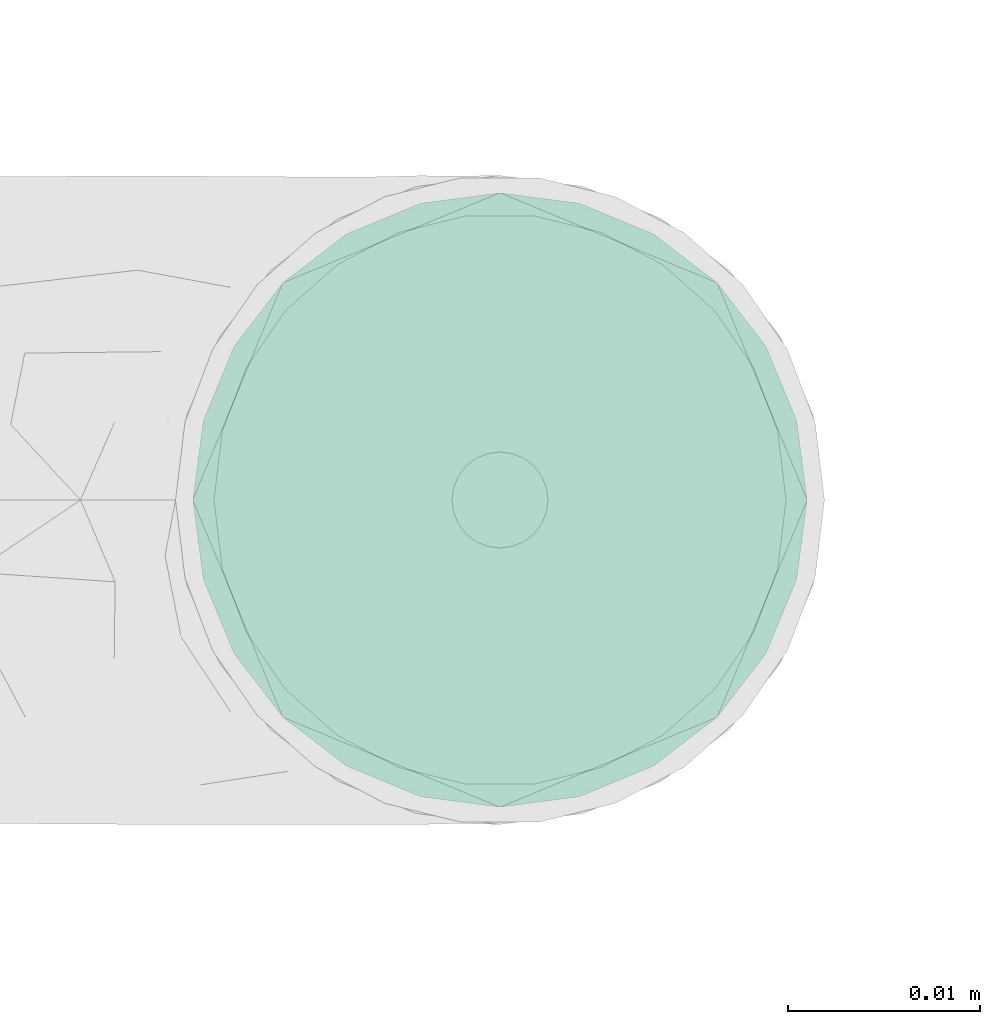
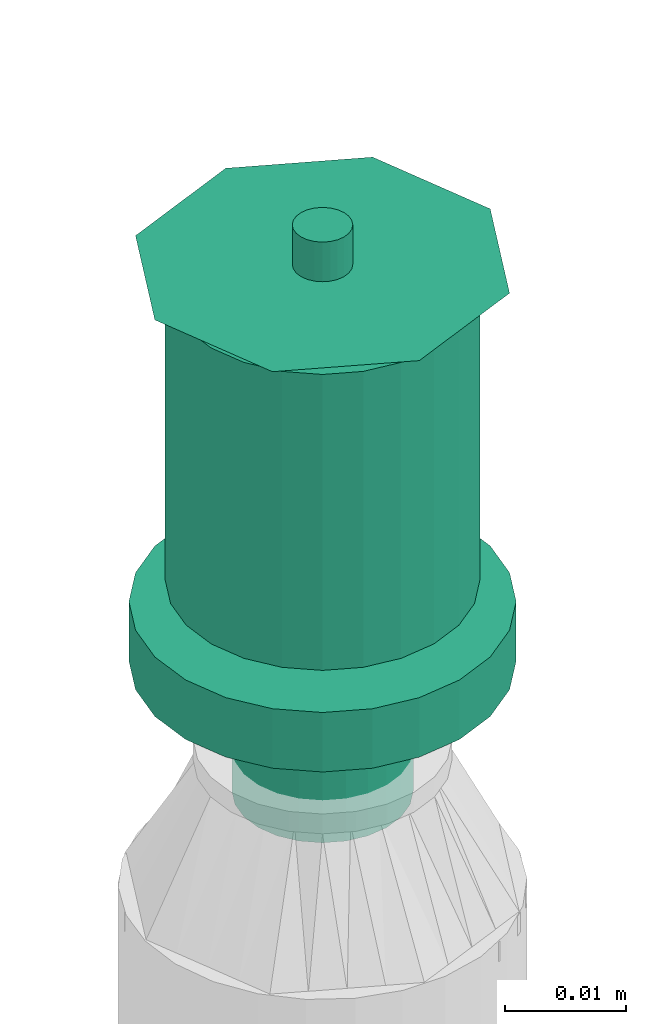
# One storey, part 135 of 157: 1 flow terminal.
"""IFC2X3 building model written with IfcOpenShell, lengths in millimetres."""

import ifcopenshell
import ifcopenshell.guid

model = None  # the IFC model being written
_history = None  # IfcOwnerHistory: only IFC2X3 demands one
_inside = {}  # id of a spatial element -> (the spatial element, [elements in it])
_under = {}  # id of a project, library or spatial element -> (it, [spatial elements below it])
_declared = {}  # id of a project -> (the project, [libraries it declares])
_typed = {}  # id of a type object -> (the type object, [elements of that type])
_made_of = {}  # id of a material, layer set ... -> (it, [elements and type objects made of it])


def new_model(schema):
    """Start an empty IFC model of exactly this schema.

    Asked for "IFC4X3", IfcOpenShell would pick the latest addendum, in which some entities
    have other attributes; the version numbers below select the first issue.
    IFC2X3 requires an IfcOwnerHistory on every rooted entity: one is made here for all.
    """
    global model, _history
    if schema == "IFC4X3":
        model = ifcopenshell.file(schema_version=(4, 3, 0, 0))
    else:
        model = ifcopenshell.file(schema=schema)
    _inside.clear()
    _under.clear()
    _declared.clear()
    _typed.clear()
    _made_of.clear()
    _history = None
    if model.schema == "IFC2X3":
        org = make("IfcOrganization", Name="unknown")
        user = make(
            "IfcPersonAndOrganization",
            ThePerson=make("IfcPerson", FamilyName="unknown"),
            TheOrganization=org,
        )
        app = make(
            "IfcApplication",
            ApplicationDeveloper=org,
            Version="unknown",
            ApplicationFullName="unknown",
            ApplicationIdentifier="unknown",
        )
        _history = make(
            "IfcOwnerHistory",
            OwningUser=user,
            OwningApplication=app,
            ChangeAction="ADDED",
            CreationDate=0,
        )
    return model


def make(cls, **values):
    """One entity of the class cls with the attributes given. An attribute that is None is left unset."""
    return model.create_entity(
        cls, **{name: value for name, value in values.items() if value is not None}
    )


def entity(cls, *values):
    """Any entity or typed value of the class cls, its attributes in the order of the schema. None: left unset."""
    e = model.create_entity(cls)
    for i, value in enumerate(values):
        if value is not None:
            e[i] = value
    return e


def rooted(cls, **values):
    """An entity with a GlobalId (a new one), such as an element, a storey or a relation."""
    return make(cls, GlobalId=ifcopenshell.guid.new(), OwnerHistory=_history, **values)


def si_unit(unit_type, name, prefix=None):
    """IfcSIUnit, for example si_unit("LENGTHUNIT", "METRE", prefix="MILLI")."""
    return make("IfcSIUnit", UnitType=unit_type, Prefix=prefix, Name=name)


def converted_unit(unit_type, name, factor, base, dimensions=None, offset=None):
    """IfcConversionBasedUnit, such as the inch: factor (a typed value) times the base unit."""
    return make(
        "IfcConversionBasedUnit"
        if offset is None
        else "IfcConversionBasedUnitWithOffset",
        ConversionOffset=offset,
        Dimensions=None
        if dimensions is None
        else entity("IfcDimensionalExponents", *dimensions),
        UnitType=unit_type,
        Name=name,
        ConversionFactor=make(
            "IfcMeasureWithUnit", ValueComponent=factor, UnitComponent=base
        ),
    )


def derived_unit(unit_type, elements):
    """IfcDerivedUnit: a product of units, each with its exponent."""
    return make(
        "IfcDerivedUnit",
        Elements=[
            make("IfcDerivedUnitElement", Unit=unit, Exponent=power)
            for unit, power in elements
        ],
        UnitType=unit_type,
    )


def assignment(units):
    """IfcUnitAssignment: the units of a project."""
    return None if units is None else make("IfcUnitAssignment", Units=units)


def point(xyz):
    """IfcCartesianPoint."""
    return None if xyz is None else make("IfcCartesianPoint", Coordinates=xyz)


def direction(xyz):
    """IfcDirection."""
    return None if xyz is None else make("IfcDirection", DirectionRatios=xyz)


def frame(location, z_axis=None, x_axis=None):
    """IfcAxis2Placement3D, a coordinate frame: its origin and axes. An axis left out is left unset."""
    return make(
        "IfcAxis2Placement3D",
        Location=point(location),
        Axis=direction(z_axis),
        RefDirection=direction(x_axis),
    )


def origin_with_axes():
    """The frame at (0, 0, 0) with the z axis (0, 0, 1) and the x axis (1, 0, 0) written out."""
    return frame((0.0, 0.0, 0.0), z_axis=(0.0, 0.0, 1.0), x_axis=(1.0, 0.0, 0.0))


def place(relative_to, where):
    """IfcLocalPlacement: puts the frame where relative to a parent placement (None: the world)."""
    return make(
        "IfcLocalPlacement", PlacementRelTo=relative_to, RelativePlacement=where
    )


def context(
    kind, dimensions, precision=None, world=None, true_north=None, identifier=None
):
    """IfcGeometricRepresentationContext, for example the 3D "Model" context."""
    return make(
        "IfcGeometricRepresentationContext",
        ContextIdentifier=identifier,
        ContextType=kind,
        CoordinateSpaceDimension=dimensions,
        Precision=precision,
        WorldCoordinateSystem=world,
        TrueNorth=true_north,
    )


def subcontext(parent, identifier, kind, view, scale=None):
    """IfcGeometricRepresentationSubContext, for example "Body" below "Model"."""
    return make(
        "IfcGeometricRepresentationSubContext",
        ContextIdentifier=identifier,
        ContextType=kind,
        ParentContext=parent,
        TargetScale=scale,
        TargetView=view,
    )


def project(units=None, contexts=None):
    """IfcProject with its units and contexts."""
    return rooted(
        "IfcProject",
        Name="project",
        RepresentationContexts=contexts,
        UnitsInContext=assignment(units),
    )


def spatial(cls, under=None, at=None, **own):
    """A site, building, storey or space (cls), placed at a placement, below another one or the project."""
    s = rooted(cls, ObjectPlacement=at, **own)
    if under is not None:
        _under.setdefault(under.id(), (under, []))[1].append(s)
    return s


def faces_of(points, faces, orient=None, outer=None):
    """IfcFace entities. A face is a list of loops; a loop is a list of indices into points, from 0.

    orient and outer hold one flag for each loop. By default every Orientation is true, the
    first loop of a face is its IfcFaceOuterBound and the others are IfcFaceBound.
    """
    made = []
    for i, loops in enumerate(faces):
        bounds = []
        for j, loop in enumerate(loops):
            is_outer = j == 0 if outer is None else outer[i][j]
            bounds.append(
                make(
                    "IfcFaceOuterBound" if is_outer else "IfcFaceBound",
                    Bound=make("IfcPolyLoop", Polygon=[points[k] for k in loop]),
                    Orientation=True if orient is None else orient[i][j],
                )
            )
        made.append(make("IfcFace", Bounds=bounds))
    return made


def open_shell(faces, orient=None, outer=None):
    """The faces of one IfcOpenShell. surface_model builds it on its shared points."""
    return ("IfcOpenShell", faces, orient, outer)


def surface_model(cls, points, shells):
    """IfcFaceBasedSurfaceModel or IfcShellBasedSurfaceModel (cls): surfaces that need not close."""
    shared = [point(p) for p in points]
    made = [make(c, CfsFaces=faces_of(shared, fs, o, b)) for c, fs, o, b in shells]
    if cls == "IfcFaceBasedSurfaceModel":
        return make(cls, FbsmFaces=made)
    return make(cls, SbsmBoundary=made)


def shape(context_of_items, identifier, shape_type, items):
    """IfcShapeRepresentation: the items that make up one representation, for example the "Body"."""
    return make(
        "IfcShapeRepresentation",
        ContextOfItems=context_of_items,
        RepresentationIdentifier=identifier,
        RepresentationType=shape_type,
        Items=items,
    )


def source(mapping_origin, context_of_items, identifier, shape_type, items):
    """IfcRepresentationMap: a shape defined once, which mapped items show again and again."""
    return make(
        "IfcRepresentationMap",
        MappingOrigin=mapping_origin,
        MappedRepresentation=shape(context_of_items, identifier, shape_type, items),
    )


def transform(
    local_origin,
    x_axis=None,
    y_axis=None,
    z_axis=None,
    scale=None,
    scale2=None,
    scale3=None,
    uniform=True,
):
    """IfcCartesianTransformationOperator3D, or its non-uniform kind. x_axis, y_axis, z_axis: its Axis1, 2, 3."""
    if uniform:
        return make(
            "IfcCartesianTransformationOperator3D",
            Axis1=direction(x_axis),
            Axis2=direction(y_axis),
            LocalOrigin=point(local_origin),
            Scale=scale,
            Axis3=direction(z_axis),
        )
    return make(
        "IfcCartesianTransformationOperator3DnonUniform",
        Axis1=direction(x_axis),
        Axis2=direction(y_axis),
        LocalOrigin=point(local_origin),
        Scale=scale,
        Axis3=direction(z_axis),
        Scale2=scale2,
        Scale3=scale3,
    )


def mapped(mapping_source, mapping_target):
    """IfcMappedItem: shows the shape of a source again, moved by a transform."""
    return make(
        "IfcMappedItem", MappingSource=mapping_source, MappingTarget=mapping_target
    )


def made_of(thing, what):
    """Note that an element or type object is made of a material, layer set ...; save() writes the relation."""
    if what is not None:
        _made_of.setdefault(what.id(), (what, []))[1].append(thing)
    return thing


def type_object(cls, material=None, **own):
    """A type object (cls), such as IfcWallType, which elements share."""
    return made_of(rooted(cls, **own), material)


def element(
    cls,
    number,
    at=None,
    inside=None,
    cuts=None,
    type_object=None,
    material=None,
    context=None,
    identifier="Body",
    shape_type=None,
    held_by="IfcProductDefinitionShape",
    body=None,
    shapes=None,
    **own,
):
    """One element of the class cls, such as IfcWall. Its Tag is "e" and its number.

    at: its placement. inside: the storey or other place that contains it. cuts: it is an
    opening in that element (IfcRelVoidsElement). A single representation is given by context,
    identifier, shape_type and body (its items); several are given by shapes. held_by: the class
    of the entity that holds the representations. save() writes the other relations.
    """
    e = rooted(cls, Tag="e%d" % number, ObjectPlacement=at, **own)
    if body is not None:
        shapes = [shape(context, identifier, shape_type, body)]
    if shapes is not None:
        e.Representation = make(held_by, Representations=shapes)
    if inside is not None:
        _inside.setdefault(inside.id(), (inside, []))[1].append(e)
    if cuts is not None:
        rooted(
            "IfcRelVoidsElement", RelatingBuildingElement=cuts, RelatedOpeningElement=e
        )
    if type_object is not None:
        _typed.setdefault(type_object.id(), (type_object, []))[1].append(e)
    return made_of(e, material)


def aggregate(whole, parts):
    """IfcRelAggregates: a whole, such as a stair, and the parts it consists of."""
    return rooted("IfcRelAggregates", RelatingObject=whole, RelatedObjects=parts)


def save(model, path):
    """Write the relations noted so far, then the file.

    IfcRelAggregates (storeys below a building ...), IfcRelContainedInSpatialStructure (elements
    in a storey), IfcRelDefinesByType, IfcRelAssociatesMaterial and IfcRelDeclares: one each for
    every whole, place, type object, material and project.
    """
    for whole, parts in _under.values():
        aggregate(whole, parts)
    for where, things in _inside.values():
        rooted(
            "IfcRelContainedInSpatialStructure",
            RelatedElements=things,
            RelatingStructure=where,
        )
    for kind, things in _typed.values():
        rooted("IfcRelDefinesByType", RelatedObjects=things, RelatingType=kind)
    for what, things in _made_of.values():
        rooted("IfcRelAssociatesMaterial", RelatedObjects=things, RelatingMaterial=what)
    for by, libraries in _declared.values():
        rooted("IfcRelDeclares", RelatingContext=by, RelatedDefinitions=libraries)
    model.write(path)


model = new_model("IFC2X3")

# Units and contexts
model_context = context("Model", 3, precision=0.01, world=frame((0.0, 4.29681676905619e-09, 0.0)), true_north=direction((4.01073788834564e-13, 1.0)))
plan_context = context("Plan", 3, precision=0.01, world=frame((0.0, 4.29681676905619e-09, 0.0)), true_north=direction((4.01073788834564e-13, 1.0)))
body_context = subcontext(model_context, "Body", "Model", "MODEL_VIEW")
ifc_project = project(units=[converted_unit("PLANEANGLEUNIT", "DEGREE", entity("IfcPositiveLengthMeasure", 0.0174532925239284), si_unit("PLANEANGLEUNIT", "RADIAN"), dimensions=[0, 0, 0, 0, 0, 0, 0]), si_unit("AREAUNIT", "SQUARE_METRE"), si_unit("LENGTHUNIT", "METRE", prefix="MILLI"), si_unit("MASSUNIT", "GRAM", prefix="KILO"), si_unit("POWERUNIT", "WATT"), si_unit("PRESSUREUNIT", "PASCAL"), si_unit("FORCEUNIT", "NEWTON", prefix="KILO"), si_unit("ELECTRICCURRENTUNIT", "AMPERE"), si_unit("THERMODYNAMICTEMPERATUREUNIT", "DEGREE_CELSIUS"), si_unit("TIMEUNIT", "SECOND"), si_unit("VOLUMEUNIT", "CUBIC_METRE"), derived_unit("LINEARVELOCITYUNIT", [(si_unit("LENGTHUNIT", "METRE"), 1), (si_unit("TIMEUNIT", "SECOND"), -1)]), derived_unit("VOLUMETRICFLOWRATEUNIT", [(si_unit("VOLUMEUNIT", "CUBIC_METRE"), 1), (si_unit("TIMEUNIT", "SECOND"), -1)]), derived_unit("THERMALTRANSMITTANCEUNIT", [(si_unit("POWERUNIT", "WATT"), 1), (si_unit("THERMODYNAMICTEMPERATUREUNIT", "KELVIN"), -1), (si_unit("AREAUNIT", "SQUARE_METRE"), -1)])], contexts=[model_context, plan_context])

# Site, building, storey
site_placement = place(None, frame((0.0, -4.29681676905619e-09, 0.0), z_axis=(0.0, 0.0, 1.0), x_axis=(1.0, 0.0, 0.0)))
site = spatial("IfcSite", under=ifc_project, at=site_placement, CompositionType="ELEMENT")
building_placement = place(site_placement, frame((0.0, 4.29681676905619e-09, 0.0), z_axis=(0.0, 0.0, 1.0), x_axis=(1.0, 0.0, 0.0)))
building = spatial("IfcBuilding", under=site, at=building_placement, Name="mc-building", CompositionType="ELEMENT")
storey_placement = place(building_placement, frame((0.0, 0.0, 204000.0), z_axis=(0.0, 0.0, 1.0), x_axis=(1.0, 0.0, 0.0)))
storey = spatial("IfcBuildingStorey", under=building, at=storey_placement, Name="Nivå D", CompositionType="ELEMENT", Elevation=204000.0)

# Flow terminal
fire_suppression_terminal_type = type_object("IfcFireSuppressionTerminalType", Name="68DGR-STD-STÅENDE", PredefinedType="NOTDEFINED")
shared_shape = source(origin_with_axes(), body_context, "Body", "SurfaceModel", [
    surface_model("IfcShellBasedSurfaceModel", [(3.36465, -12.55704, 51.0), (6.5, -11.25833, 51.0), (9.19239, -9.19239, 51.0), (12.55704, -3.36465, 51.0), (-11.25833, -6.5, 51.0), (11.25833, -6.5, 51.0), (-13.0, 0.0, 51.0), (0.0, -13.0, 51.0), (-6.5, -11.25833, 51.0), (-3.36465, -12.55704, 51.0), (-9.19239, -9.19239, 51.0), (-12.55704, -3.36465, 51.0), (13.0, 0.0, 51.0), (12.55704, 3.36465, 51.0), (11.25833, 6.5, 51.0), (9.19239, 9.19239, 51.0), (6.5, 11.25833, 51.0), (3.36465, 12.55704, 51.0), (0.0, 13.0, 51.0), (-3.36465, 12.55704, 51.0), (-12.55704, 3.36465, 51.0), (-9.19239, 9.19239, 51.0), (-11.25833, 6.5, 51.0), (-6.5, 11.25833, 51.0), (0.0, 13.0, 21.14766), (3.36465, 12.55704, 21.14766), (6.5, 11.25833, 21.14766), (-3.36465, 12.55704, 21.14766), (9.19239, 9.19239, 21.14766), (11.25833, 6.5, 21.14766), (12.55704, 3.36465, 21.14766), (-12.55704, 3.36465, 21.14766), (-11.25833, -6.5, 21.14766), (-9.19239, 9.19239, 21.14766), (-6.5, 11.25833, 21.14766), (-11.25833, 6.5, 21.14766), (-13.0, 0.0, 21.14766), (12.55704, -3.36465, 21.14766), (9.19239, -9.19239, 21.14766), (11.25833, -6.5, 21.14766), (6.5, -11.25833, 21.14766), (3.36465, -12.55704, 21.14766), (-6.5, -11.25833, 21.14766), (-9.19239, -9.19239, 21.14766), (-12.55704, -3.36465, 21.14766), (0.0, -13.0, 21.14766), (-3.36465, -12.55704, 21.14766), (13.0, 0.0, 21.14766), (7.24444, -1.94114, 0.1), (1.94114, -7.24444, 0.1), (3.75, -6.49519, 0.1), (5.3033, -5.3033, 0.1), (-5.3033, -5.3033, 0.1), (6.49519, -3.75, 0.1), (5.3033, 5.3033, 0.1), (0.0, -7.5, 0.1), (-3.75, -6.49519, 0.1), (-1.94114, -7.24444, 0.1), (-7.24444, -1.94114, 0.1), (-6.49519, -3.75, 0.1), (-7.24444, 1.94114, 0.1), (7.5, 0.0, 0.1), (6.49519, 3.75, 0.1), (-6.49519, 3.75, 0.1), (1.94114, 7.24444, 0.1), (0.0, 7.5, 0.1), (3.75, 6.49519, 0.1), (-7.5, 0.0, 0.1), (-5.3033, 5.3033, 0.1), (-1.94114, 7.24444, 0.1), (-3.75, 6.49519, 0.1), (7.24444, 1.94114, 0.1), (1.94114, 7.24444, -0.1), (-6.49519, 3.75, -0.1), (0.0, 7.5, -0.1), (5.3033, 5.3033, -0.1), (3.75, 6.49519, -0.1), (6.49519, 3.75, -0.1), (7.24444, 1.94114, -0.1), (-1.94114, 7.24444, -0.1), (-5.3033, 5.3033, -0.1), (-3.75, 6.49519, -0.1), (-7.24444, 1.94114, -0.1), (-7.24444, -1.94114, -0.1), (-7.5, 0.0, -0.1), (7.5, 0.0, -0.1), (7.24444, -1.94114, -0.1), (-5.3033, -5.3033, -0.1), (1.94114, -7.24444, -0.1), (6.49519, -3.75, -0.1), (5.3033, -5.3033, -0.1), (3.75, -6.49519, -0.1), (-6.49519, -3.75, -0.1), (-3.75, -6.49519, -0.1), (0.0, -7.5, -0.1), (-1.94114, -7.24444, -0.1), (0.0, -2.5, 51.0), (-2.5, 0.0, 51.0), (0.0, 2.5, 51.0), (2.5, 0.0, 51.0), (0.0, -16.0, 53.0), (11.31371, -11.31371, 53.0), (-11.31371, -11.31371, 53.0), (-16.0, 0.0, 53.0), (16.0, 0.0, 53.0), (11.31371, 11.31371, 53.0), (0.0, 16.0, 53.0), (-11.31371, 11.31371, 53.0), (1.25, -2.16506, 57.0), (0.0, -2.5, 57.0), (0.64705, -2.41481, 57.0), (2.41481, -0.64705, 57.0), (1.76777, -1.76777, 57.0), (-2.41481, -0.64705, 57.0), (-2.5, 0.0, 57.0), (2.16506, -1.25, 57.0), (-1.25, -2.16506, 57.0), (-0.64705, -2.41481, 57.0), (-1.76777, -1.76777, 57.0), (-2.16506, -1.25, 57.0), (2.5, 0.0, 57.0), (2.41481, 0.64705, 57.0), (2.16506, 1.25, 57.0), (1.76777, 1.76777, 57.0), (0.64705, 2.41481, 57.0), (1.25, 2.16506, 57.0), (-1.76777, 1.76777, 57.0), (0.0, 2.5, 57.0), (-2.16506, 1.25, 57.0), (-2.41481, 0.64705, 57.0), (-0.64705, 2.41481, 57.0), (-1.25, 2.16506, 57.0), (1.25, 2.16506, 51.0), (1.76777, 1.76777, 51.0), (1.15, 1.99186, 51.0), (0.59528, 2.22163, 51.0), (0.64705, 2.41481, 51.0), (0.0, 2.3, 51.0), (1.62635, 1.62635, 51.0), (2.41481, 0.64705, 51.0), (2.3, 0.0, 51.0), (2.22163, 0.59528, 51.0), (2.16506, 1.25, 51.0), (1.99186, 1.15, 51.0), (-0.59528, 2.22163, 51.0), (-0.64705, 2.41481, 51.0), (-1.15, 1.99186, 51.0), (-1.76777, 1.76777, 51.0), (-1.25, 2.16506, 51.0), (-1.62635, 1.62635, 51.0), (-1.99186, 1.15, 51.0), (-2.16506, 1.25, 51.0), (-2.22163, 0.59528, 51.0), (-2.41481, 0.64705, 51.0), (-2.3, 0.0, 51.0), (2.41481, -0.64705, 51.0), (2.22163, -0.59528, 51.0), (1.99186, -1.15, 51.0), (2.16506, -1.25, 51.0), (1.62635, -1.62635, 51.0), (1.76777, -1.76777, 51.0), (1.25, -2.16506, 51.0), (1.15, -1.99186, 51.0), (0.59528, -2.22163, 51.0), (0.64705, -2.41481, 51.0), (0.0, -2.3, 51.0), (-2.16506, -1.25, 51.0), (-1.99186, -1.15, 51.0), (-1.76777, -1.76777, 51.0), (-1.62635, -1.62635, 51.0), (-2.41481, -0.64705, 51.0), (-2.22163, -0.59528, 51.0), (-0.59528, -2.22163, 51.0), (-0.64705, -2.41481, 51.0), (-1.15, -1.99186, 51.0), (-1.25, -2.16506, 51.0), (1.62635, -1.62635, 56.8), (1.15, -1.99186, 56.8), (0.59528, -2.22163, 56.8), (0.0, -2.3, 56.8), (2.22163, 0.59528, 56.8), (1.99186, -1.15, 56.8), (2.22163, -0.59528, 56.8), (-0.59528, -2.22163, 56.8), (-1.15, -1.99186, 56.8), (-1.62635, -1.62635, 56.8), (-1.99186, -1.15, 56.8), (-2.22163, -0.59528, 56.8), (-1.99186, 1.15, 56.8), (2.3, 0.0, 56.8), (1.62635, 1.62635, 56.8), (1.99186, 1.15, 56.8), (1.15, 1.99186, 56.8), (0.0, 2.3, 56.8), (0.59528, 2.22163, 56.8), (-2.22163, 0.59528, 56.8), (-2.3, 0.0, 56.8), (-1.15, 1.99186, 56.8), (-0.59528, 2.22163, 56.8), (-1.62635, 1.62635, 56.8), (4.1411, -15.45481, 19.0), (8.0, -13.85641, 19.0), (11.31371, -11.31371, 19.0), (-8.0, -13.85641, 19.0), (15.45481, -4.1411, 19.0), (16.0, 0.0, 19.0), (13.85641, -8.0, 19.0), (0.0, -16.0, 19.0), (-4.1411, -15.45481, 19.0), (-13.85641, -8.0, 19.0), (-11.31371, -11.31371, 19.0), (-15.45481, -4.1411, 19.0), (15.45481, 4.1411, 19.0), (13.85641, 8.0, 19.0), (11.31371, 11.31371, 19.0), (-4.1411, 15.45481, 19.0), (8.0, 13.85641, 19.0), (4.1411, 15.45481, 19.0), (0.0, 16.0, 19.0), (-13.85641, 8.0, 19.0), (-15.45481, 4.1411, 19.0), (-16.0, 0.0, 19.0), (-11.31371, 11.31371, 19.0), (-8.0, 13.85641, 19.0), (0.0, 16.0, 13.0), (4.1411, 15.45481, 13.0), (8.0, 13.85641, 13.0), (-4.1411, 15.45481, 13.0), (11.31371, 11.31371, 13.0), (13.85641, 8.0, 13.0), (15.45481, 4.1411, 13.0), (-15.45481, -4.1411, 13.0), (-11.31371, 11.31371, 13.0), (-8.0, 13.85641, 13.0), (-13.85641, 8.0, 13.0), (-15.45481, 4.1411, 13.0), (-16.0, 0.0, 13.0), (4.1411, -15.45481, 13.0), (16.0, 0.0, 13.0), (15.45481, -4.1411, 13.0), (13.85641, -8.0, 13.0), (11.31371, -11.31371, 13.0), (8.0, -13.85641, 13.0), (-8.0, -13.85641, 13.0), (-13.85641, -8.0, 13.0), (-11.31371, -11.31371, 13.0), (0.0, -16.0, 13.0), (-4.1411, -15.45481, 13.0), (7.24444, -1.94114, 13.0), (1.94114, -7.24444, 13.0), (3.75, -6.49519, 13.0), (5.3033, -5.3033, 13.0), (-5.3033, -5.3033, 13.0), (6.49519, -3.75, 13.0), (5.3033, 5.3033, 13.0), (0.0, -7.5, 13.0), (-3.75, -6.49519, 13.0), (-1.94114, -7.24444, 13.0), (-7.24444, -1.94114, 13.0), (-6.49519, -3.75, 13.0), (-7.24444, 1.94114, 13.0), (7.5, 0.0, 13.0), (6.49519, 3.75, 13.0), (-6.49519, 3.75, 13.0), (1.94114, 7.24444, 13.0), (0.0, 7.5, 13.0), (3.75, 6.49519, 13.0), (-7.5, 0.0, 13.0), (-5.3033, 5.3033, 13.0), (-1.94114, 7.24444, 13.0), (-3.75, 6.49519, 13.0), (7.24444, 1.94114, 13.0), (3.75, 6.49519, 0.0), (5.3033, 5.3033, 0.0), (3.65, 6.32199, 0.0), (1.88938, 7.05126, 0.0), (0.0, 7.3, 0.0), (1.94114, 7.24444, 0.0), (0.0, 7.5, 0.0), (5.16188, 5.16188, 0.0), (7.24444, 1.94114, 0.0), (7.3, 0.0, 0.0), (7.05126, 1.88938, 0.0), (7.5, 0.0, 0.0), (6.49519, 3.75, 0.0), (6.32199, 3.65, 0.0), (-1.88938, 7.05126, 0.0), (-1.94114, 7.24444, 0.0), (-3.65, 6.32199, 0.0), (-5.3033, 5.3033, 0.0), (-3.75, 6.49519, 0.0), (-5.16188, 5.16188, 0.0), (-6.32199, 3.65, 0.0), (-6.49519, 3.75, 0.0), (-7.05126, 1.88938, 0.0), (-7.24444, 1.94114, 0.0), (-7.3, 0.0, 0.0), (-7.5, 0.0, 0.0), (7.24444, -1.94114, 0.0), (7.05126, -1.88938, 0.0), (6.32199, -3.65, 0.0), (6.49519, -3.75, 0.0), (5.16188, -5.16188, 0.0), (5.3033, -5.3033, 0.0), (3.75, -6.49519, 0.0), (3.65, -6.32199, 0.0), (1.88938, -7.05126, 0.0), (1.94114, -7.24444, 0.0), (0.0, -7.3, 0.0), (0.0, -7.5, 0.0), (-6.49519, -3.75, 0.0), (-6.32199, -3.65, 0.0), (-5.3033, -5.3033, 0.0), (-5.16188, -5.16188, 0.0), (-7.24444, -1.94114, 0.0), (-7.05126, -1.88938, 0.0), (-1.88938, -7.05126, 0.0), (-1.94114, -7.24444, 0.0), (-3.65, -6.32199, 0.0), (-3.75, -6.49519, 0.0), (1.88938, -7.05126, 12.8), (0.0, -7.3, 12.8), (3.65, -6.32199, 12.8), (5.16188, -5.16188, 12.8), (6.32199, -3.65, 12.8), (7.05126, 1.88938, 12.8), (7.05126, -1.88938, 12.8), (-5.16188, -5.16188, 12.8), (-1.88938, -7.05126, 12.8), (-3.65, -6.32199, 12.8), (-6.32199, -3.65, 12.8), (-7.05126, -1.88938, 12.8), (0.0, 7.3, 12.8), (7.3, 0.0, 12.8), (6.32199, 3.65, 12.8), (5.16188, 5.16188, 12.8), (3.65, 6.32199, 12.8), (1.88938, 7.05126, 12.8), (-6.32199, 3.65, 12.8), (-7.05126, 1.88938, 12.8), (-7.3, 0.0, 12.8), (-3.65, 6.32199, 12.8), (-1.88938, 7.05126, 12.8), (-5.16188, 5.16188, 12.8)], [open_shell([[[0, 1, 2]], [[0, 2, 3]], [[0, 3, 4]], [[3, 2, 5]], [[6, 4, 3]], [[7, 8, 9]], [[7, 0, 8]], [[8, 4, 10]], [[0, 4, 8]], [[4, 6, 11]], [[6, 3, 12]], [[13, 14, 15]], [[6, 13, 15]], [[16, 17, 18]], [[15, 16, 19]], [[18, 19, 16]], [[20, 21, 22]], [[20, 6, 15]], [[21, 19, 23]], [[19, 21, 20]], [[15, 19, 20]], [[13, 6, 12]], [[24, 25, 26]], [[27, 24, 26]], [[28, 29, 30]], [[26, 28, 31]], [[28, 32, 31]], [[27, 33, 34]], [[33, 27, 31]], [[33, 31, 35]], [[27, 26, 31]], [[31, 32, 36]], [[32, 28, 30]], [[32, 30, 37]], [[38, 37, 39]], [[38, 40, 41]], [[38, 41, 37]], [[32, 37, 41]], [[32, 42, 43]], [[44, 36, 32]], [[42, 45, 46]], [[42, 32, 41]], [[45, 42, 41]], [[30, 47, 37]], [[4, 32, 43]], [[8, 42, 46]], [[43, 42, 10]], [[9, 46, 45]], [[36, 11, 6]], [[11, 36, 44]], [[11, 44, 4]], [[44, 32, 4]], [[43, 10, 4]], [[8, 10, 42]], [[46, 9, 8]], [[45, 7, 9]], [[0, 41, 40]], [[38, 1, 40]], [[5, 39, 37]], [[38, 39, 2]], [[3, 37, 47]], [[41, 0, 7]], [[40, 1, 0]], [[38, 2, 1]], [[39, 5, 2]], [[3, 5, 37]], [[47, 12, 3]], [[41, 7, 45]], [[30, 13, 47]], [[29, 14, 30]], [[25, 24, 17]], [[15, 29, 28]], [[30, 14, 13]], [[13, 12, 47]], [[16, 26, 17]], [[16, 15, 28]], [[26, 25, 17]], [[15, 14, 29]], [[28, 26, 16]], [[24, 18, 17]], [[19, 27, 34]], [[33, 23, 34]], [[22, 35, 31]], [[33, 35, 21]], [[20, 31, 36]], [[27, 19, 18]], [[34, 23, 19]], [[33, 21, 23]], [[35, 22, 21]], [[20, 22, 31]], [[36, 6, 20]], [[27, 18, 24]], [[48, 49, 50]], [[48, 50, 51]], [[49, 48, 52]], [[48, 51, 53]], [[54, 52, 48]], [[55, 56, 57]], [[56, 55, 52]], [[52, 58, 59]], [[52, 55, 49]], [[52, 60, 58]], [[54, 48, 61]], [[62, 54, 61]], [[54, 63, 52]], [[64, 65, 54]], [[64, 54, 66]], [[63, 54, 65]], [[63, 60, 52]], [[67, 58, 60]], [[68, 69, 70]], [[69, 68, 63]], [[69, 63, 65]], [[71, 62, 61]], [[72, 73, 74]], [[75, 72, 76]], [[75, 77, 78]], [[72, 75, 73]], [[78, 73, 75]], [[79, 80, 81]], [[80, 79, 73]], [[74, 73, 79]], [[78, 82, 73]], [[82, 83, 84]], [[82, 78, 85]], [[86, 87, 85]], [[88, 86, 89]], [[90, 91, 88]], [[90, 88, 89]], [[87, 86, 88]], [[83, 87, 92]], [[83, 85, 87]], [[93, 94, 95]], [[94, 93, 87]], [[88, 94, 87]], [[85, 83, 82]], [[83, 58, 84]], [[92, 59, 83]], [[56, 87, 93]], [[92, 87, 52]], [[57, 93, 95]], [[83, 59, 58]], [[58, 67, 84]], [[57, 56, 93]], [[52, 87, 56]], [[52, 59, 92]], [[55, 57, 95]], [[95, 94, 55]], [[88, 49, 94]], [[91, 50, 88]], [[53, 90, 89]], [[91, 90, 51]], [[48, 89, 86]], [[91, 51, 50]], [[50, 49, 88]], [[61, 48, 86]], [[53, 89, 48]], [[53, 51, 90]], [[85, 61, 86]], [[94, 49, 55]], [[78, 71, 85]], [[77, 62, 78]], [[66, 75, 76]], [[77, 75, 54]], [[64, 76, 72]], [[78, 62, 71]], [[71, 61, 85]], [[64, 66, 76]], [[54, 75, 66]], [[54, 62, 77]], [[65, 64, 72]], [[72, 74, 65]], [[79, 69, 74]], [[81, 70, 79]], [[63, 80, 73]], [[81, 80, 68]], [[60, 73, 82]], [[81, 68, 70]], [[70, 69, 79]], [[67, 60, 82]], [[63, 73, 60]], [[63, 68, 80]], [[84, 67, 82]], [[74, 69, 65]], [[96, 97, 98]], [[98, 99, 96]], [[100, 101, 102]], [[103, 102, 101]], [[101, 104, 103]], [[104, 105, 106]], [[107, 103, 106]], [[106, 103, 104]], [[99, 98, 105]], [[105, 104, 99]], [[98, 106, 105]], [[98, 107, 106]], [[107, 98, 97]], [[103, 107, 97]], [[97, 96, 102]], [[102, 103, 97]], [[96, 100, 102]], [[96, 101, 100]], [[101, 96, 99]], [[104, 101, 99]], [[108, 109, 110]], [[111, 108, 112]], [[113, 108, 114]], [[111, 112, 115]], [[108, 111, 114]], [[109, 116, 117]], [[116, 109, 118]], [[118, 113, 119]], [[118, 109, 108]], [[108, 113, 118]], [[111, 120, 114]], [[121, 122, 123]], [[114, 121, 123]], [[114, 123, 124]], [[124, 123, 125]], [[126, 124, 127]], [[124, 128, 129]], [[129, 114, 124]], [[126, 130, 131]], [[128, 124, 126]], [[130, 126, 127]], [[121, 114, 120]], [[132, 133, 134]], [[132, 134, 135]], [[136, 135, 137]], [[135, 136, 132]], [[136, 137, 98]], [[134, 133, 138]], [[139, 140, 141]], [[140, 139, 99]], [[139, 141, 142]], [[138, 142, 143]], [[142, 138, 133]], [[143, 142, 141]], [[98, 144, 145]], [[98, 137, 144]], [[145, 144, 146]], [[147, 148, 149]], [[146, 148, 145]], [[149, 148, 146]], [[150, 151, 147]], [[151, 150, 152]], [[150, 147, 149]], [[153, 152, 154]], [[152, 153, 151]], [[153, 154, 97]], [[99, 155, 156]], [[156, 155, 157]], [[157, 158, 159]], [[158, 157, 155]], [[159, 158, 160]], [[160, 161, 162]], [[162, 161, 163]], [[163, 164, 165]], [[164, 163, 161]], [[165, 164, 96]], [[162, 159, 160]], [[166, 167, 168]], [[168, 167, 169]], [[167, 166, 170]], [[97, 171, 170]], [[170, 171, 167]], [[97, 154, 171]], [[172, 96, 173]], [[172, 173, 174]], [[169, 175, 168]], [[175, 169, 174]], [[175, 174, 173]], [[165, 96, 172]], [[156, 140, 99]], [[170, 113, 97]], [[166, 119, 170]], [[116, 168, 175]], [[166, 168, 118]], [[117, 175, 173]], [[170, 119, 113]], [[113, 114, 97]], [[117, 116, 175]], [[118, 168, 116]], [[118, 119, 166]], [[109, 117, 173]], [[173, 96, 109]], [[164, 110, 96]], [[161, 108, 164]], [[115, 160, 158]], [[161, 160, 112]], [[111, 158, 155]], [[161, 112, 108]], [[108, 110, 164]], [[120, 111, 155]], [[115, 158, 111]], [[115, 112, 160]], [[99, 120, 155]], [[96, 110, 109]], [[139, 121, 99]], [[142, 122, 139]], [[125, 133, 132]], [[142, 133, 123]], [[124, 132, 136]], [[139, 122, 121]], [[121, 120, 99]], [[124, 125, 132]], [[123, 133, 125]], [[123, 122, 142]], [[127, 124, 136]], [[136, 98, 127]], [[145, 130, 98]], [[148, 131, 145]], [[128, 147, 151]], [[148, 147, 126]], [[129, 151, 153]], [[148, 126, 131]], [[131, 130, 145]], [[114, 129, 153]], [[128, 151, 129]], [[128, 126, 147]], [[97, 114, 153]], [[98, 130, 127]], [[176, 177, 178]], [[176, 178, 179]], [[180, 176, 179]], [[181, 176, 182]], [[180, 182, 176]], [[183, 184, 179]], [[185, 179, 184]], [[186, 187, 185]], [[185, 187, 188]], [[179, 185, 188]], [[189, 182, 180]], [[190, 191, 180]], [[192, 190, 180]], [[193, 194, 192]], [[180, 193, 192]], [[188, 193, 180]], [[195, 188, 196]], [[196, 188, 187]], [[197, 198, 199]], [[188, 199, 198]], [[188, 198, 193]], [[180, 179, 188]], [[154, 187, 171]], [[171, 186, 167]], [[174, 169, 184]], [[185, 169, 167]], [[172, 174, 183]], [[187, 186, 171]], [[154, 196, 187]], [[174, 184, 183]], [[184, 169, 185]], [[167, 186, 185]], [[172, 183, 179]], [[179, 165, 172]], [[165, 178, 163]], [[163, 177, 162]], [[157, 159, 181]], [[176, 159, 162]], [[156, 157, 182]], [[177, 176, 162]], [[163, 178, 177]], [[156, 182, 189]], [[182, 157, 181]], [[159, 176, 181]], [[156, 189, 140]], [[179, 178, 165]], [[140, 180, 141]], [[141, 191, 143]], [[134, 138, 192]], [[190, 138, 143]], [[135, 134, 194]], [[180, 191, 141]], [[140, 189, 180]], [[134, 192, 194]], [[192, 138, 190]], [[143, 191, 190]], [[135, 194, 193]], [[193, 137, 135]], [[137, 198, 144]], [[144, 197, 146]], [[150, 149, 188]], [[199, 149, 146]], [[152, 150, 195]], [[197, 199, 146]], [[144, 198, 197]], [[152, 195, 196]], [[195, 150, 188]], [[149, 199, 188]], [[152, 196, 154]], [[193, 198, 137]], [[200, 201, 202]], [[203, 200, 202]], [[204, 205, 202]], [[204, 202, 206]], [[203, 202, 205]], [[207, 203, 208]], [[207, 200, 203]], [[203, 209, 210]], [[209, 203, 211]], [[205, 211, 203]], [[205, 212, 211]], [[212, 213, 214]], [[215, 212, 214]], [[216, 217, 218]], [[214, 216, 215]], [[218, 215, 216]], [[211, 219, 220]], [[221, 211, 220]], [[222, 215, 223]], [[215, 222, 219]], [[219, 211, 215]], [[211, 212, 215]], [[224, 225, 226]], [[227, 224, 226]], [[228, 229, 230]], [[227, 226, 228]], [[227, 228, 231]], [[227, 232, 233]], [[232, 227, 234]], [[234, 231, 235]], [[231, 234, 227]], [[235, 231, 236]], [[228, 230, 231]], [[237, 238, 239]], [[237, 239, 240]], [[241, 242, 237]], [[241, 237, 240]], [[238, 237, 243]], [[244, 243, 245]], [[243, 244, 231]], [[243, 246, 247]], [[243, 231, 238]], [[237, 246, 243]], [[238, 231, 230]], [[231, 211, 236]], [[244, 209, 231]], [[203, 245, 243]], [[244, 245, 210]], [[208, 243, 247]], [[231, 209, 211]], [[211, 221, 236]], [[208, 203, 243]], [[210, 245, 203]], [[210, 209, 244]], [[207, 208, 247]], [[247, 246, 207]], [[237, 200, 246]], [[242, 201, 237]], [[206, 241, 240]], [[242, 241, 202]], [[204, 240, 239]], [[242, 202, 201]], [[201, 200, 237]], [[205, 204, 239]], [[206, 240, 204]], [[206, 202, 241]], [[238, 205, 239]], [[246, 200, 207]], [[230, 212, 238]], [[229, 213, 230]], [[216, 228, 226]], [[229, 228, 214]], [[217, 226, 225]], [[230, 213, 212]], [[212, 205, 238]], [[217, 216, 226]], [[214, 228, 216]], [[214, 213, 229]], [[218, 217, 225]], [[225, 224, 218]], [[227, 215, 224]], [[233, 223, 227]], [[219, 232, 234]], [[233, 232, 222]], [[220, 234, 235]], [[233, 222, 223]], [[223, 215, 227]], [[221, 220, 235]], [[219, 234, 220]], [[219, 222, 232]], [[236, 221, 235]], [[224, 215, 218]], [[248, 249, 250]], [[248, 250, 251]], [[249, 248, 252]], [[248, 251, 253]], [[254, 252, 248]], [[255, 256, 257]], [[256, 255, 252]], [[252, 258, 259]], [[252, 255, 249]], [[252, 260, 258]], [[254, 248, 261]], [[262, 254, 261]], [[254, 263, 252]], [[264, 265, 254]], [[264, 254, 266]], [[263, 254, 265]], [[263, 260, 252]], [[267, 258, 260]], [[268, 269, 270]], [[269, 268, 263]], [[269, 263, 265]], [[271, 262, 261]], [[272, 273, 274]], [[272, 274, 275]], [[276, 277, 275]], [[277, 276, 278]], [[275, 277, 272]], [[274, 273, 279]], [[280, 281, 282]], [[281, 280, 283]], [[280, 282, 284]], [[279, 284, 285]], [[284, 279, 273]], [[285, 284, 282]], [[278, 286, 287]], [[287, 286, 288]], [[289, 290, 291]], [[288, 290, 287]], [[288, 291, 290]], [[278, 276, 286]], [[292, 293, 289]], [[293, 292, 294]], [[292, 289, 291]], [[295, 294, 296]], [[294, 295, 293]], [[295, 296, 297]], [[283, 298, 299]], [[299, 298, 300]], [[300, 301, 302]], [[301, 300, 298]], [[302, 301, 303]], [[303, 304, 305]], [[305, 304, 306]], [[306, 307, 308]], [[307, 306, 304]], [[308, 307, 309]], [[305, 302, 303]], [[310, 311, 312]], [[312, 311, 313]], [[311, 310, 314]], [[297, 315, 314]], [[314, 315, 311]], [[297, 296, 315]], [[316, 309, 317]], [[316, 317, 318]], [[313, 319, 312]], [[313, 318, 319]], [[319, 318, 317]], [[308, 309, 316]], [[299, 281, 283]], [[314, 258, 297]], [[310, 259, 314]], [[256, 312, 319]], [[310, 312, 252]], [[257, 319, 317]], [[314, 259, 258]], [[258, 267, 297]], [[257, 256, 319]], [[252, 312, 256]], [[252, 259, 310]], [[255, 257, 317]], [[317, 309, 255]], [[307, 249, 309]], [[304, 250, 307]], [[253, 303, 301]], [[304, 303, 251]], [[248, 301, 298]], [[304, 251, 250]], [[250, 249, 307]], [[261, 248, 298]], [[253, 301, 248]], [[253, 251, 303]], [[283, 261, 298]], [[309, 249, 255]], [[280, 271, 283]], [[284, 262, 280]], [[266, 273, 272]], [[284, 273, 254]], [[264, 272, 277]], [[280, 262, 271]], [[271, 261, 283]], [[264, 266, 272]], [[254, 273, 266]], [[254, 262, 284]], [[265, 264, 277]], [[277, 278, 265]], [[287, 269, 278]], [[290, 270, 287]], [[263, 289, 293]], [[290, 289, 268]], [[260, 293, 295]], [[290, 268, 270]], [[270, 269, 287]], [[267, 260, 295]], [[263, 293, 260]], [[263, 268, 289]], [[297, 267, 295]], [[278, 269, 265]], [[320, 321, 322]], [[323, 322, 324]], [[325, 326, 322]], [[324, 322, 326]], [[322, 327, 325]], [[328, 329, 321]], [[327, 321, 329]], [[330, 331, 327]], [[322, 321, 327]], [[331, 332, 327]], [[326, 325, 333]], [[334, 325, 332]], [[335, 334, 336]], [[332, 337, 336]], [[334, 332, 336]], [[331, 338, 332]], [[339, 338, 340]], [[340, 338, 331]], [[341, 342, 343]], [[332, 338, 343]], [[332, 343, 342]], [[332, 325, 327]], [[296, 331, 315]], [[315, 330, 311]], [[318, 313, 329]], [[327, 313, 311]], [[316, 318, 328]], [[331, 330, 315]], [[296, 340, 331]], [[318, 329, 328]], [[329, 313, 327]], [[311, 330, 327]], [[316, 328, 321]], [[321, 308, 316]], [[308, 320, 306]], [[306, 322, 305]], [[300, 302, 324]], [[323, 302, 305]], [[299, 300, 326]], [[322, 323, 305]], [[306, 320, 322]], [[299, 326, 333]], [[326, 300, 324]], [[302, 323, 324]], [[299, 333, 281]], [[321, 320, 308]], [[281, 325, 282]], [[282, 334, 285]], [[274, 279, 336]], [[335, 279, 285]], [[275, 274, 337]], [[325, 334, 282]], [[281, 333, 325]], [[274, 336, 337]], [[336, 279, 335]], [[285, 334, 335]], [[275, 337, 332]], [[332, 276, 275]], [[276, 342, 286]], [[286, 341, 288]], [[292, 291, 338]], [[343, 291, 288]], [[294, 292, 339]], [[341, 343, 288]], [[286, 342, 341]], [[294, 339, 340]], [[339, 292, 338]], [[291, 343, 338]], [[294, 340, 296]], [[332, 342, 276]]])]),
])
flow_terminal_placement = place(storey_placement, frame((518190.99696, 420297.85762, 2672.0), z_axis=(0.0, 0.0, 1.0), x_axis=(-1.0, 0.0, 0.0)))
element("IfcFlowTerminal", 1, at=flow_terminal_placement, inside=storey, type_object=fire_suppression_terminal_type, Name="68DGR-STD-STÅENDE", context=body_context, shape_type="MappedRepresentation", body=[
    mapped(shared_shape, transform((0.0, 0.0, 0.0), scale=1.0)),
])

save(model, "model.ifc")
